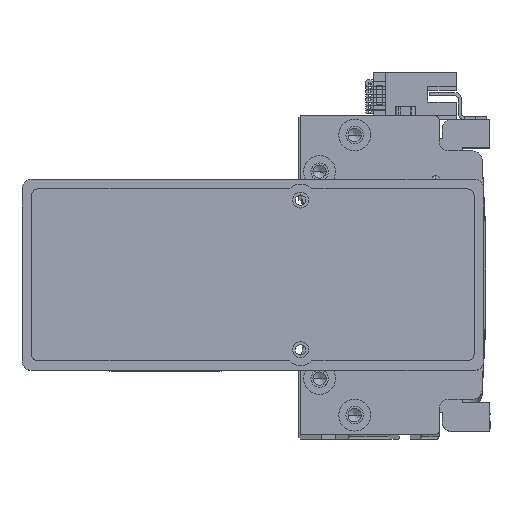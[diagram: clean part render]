
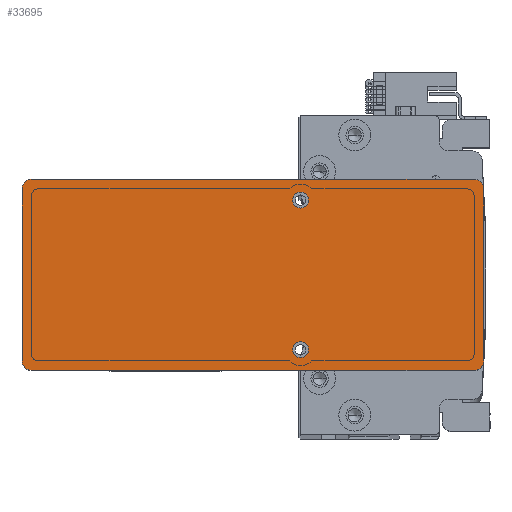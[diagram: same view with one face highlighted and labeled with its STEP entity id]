
A CAD part, top view. The second image highlights one B-rep face of the part: STEP entity #33695.
In plain terms, the highlighted planar face has unit normal (0, 0, 1) as drawn and (0, 0, -1) by its records, which use the part's own axes.
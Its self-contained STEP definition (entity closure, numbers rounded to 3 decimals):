
#326 = CARTESIAN_POINT ( 'NONE',  ( 12.5, 23.5, 0. ) ) ;
#725 = DIRECTION ( 'NONE',  ( 1., 0., 0. ) ) ;
#1093 = EDGE_CURVE ( 'NONE', #5462, #7556, #1558, .T. ) ;
#1199 = EDGE_LOOP ( 'NONE', ( #21313, #26274 ) ) ;
#1558 = LINE ( 'NONE', #44681, #29182 ) ;
#2120 = CIRCLE ( 'NONE', #23175, 2.5 ) ;
#2193 = VECTOR ( 'NONE', #13432, 1000. ) ;
#2375 = AXIS2_PLACEMENT_3D ( 'NONE', #36609, #14088, #40402 ) ;
#2855 = VECTOR ( 'NONE', #725, 1000. ) ;
#3383 = LINE ( 'NONE', #9618, #2193 ) ;
#3756 = ORIENTED_EDGE ( 'NONE', *, *, #1093, .F. ) ;
#4365 = VERTEX_POINT ( 'NONE', #9665 ) ;
#5462 = VERTEX_POINT ( 'NONE', #42609 ) ;
#5756 = EDGE_LOOP ( 'NONE', ( #25021, #12108, #41928, #28720, #3756, #22137, #45170, #6398 ) ) ;
#6196 = VERTEX_POINT ( 'NONE', #33036 ) ;
#6220 = CIRCLE ( 'NONE', #35793, 2.5 ) ;
#6398 = ORIENTED_EDGE ( 'NONE', *, *, #12328, .T. ) ;
#7210 = DIRECTION ( 'NONE',  ( 0., -1., 0. ) ) ;
#7556 = VERTEX_POINT ( 'NONE', #14453 ) ;
#7626 = AXIS2_PLACEMENT_3D ( 'NONE', #32144, #9577, #35934 ) ;
#8049 = EDGE_LOOP ( 'NONE', ( #38268, #22619 ) ) ;
#9032 = EDGE_CURVE ( 'NONE', #23651, #34639, #23567, .T. ) ;
#9577 = DIRECTION ( 'NONE',  ( 0., 0., 1. ) ) ;
#9618 = CARTESIAN_POINT ( 'NONE',  ( 72.5, -30., 0. ) ) ;
#9665 = CARTESIAN_POINT ( 'NONE',  ( 69.5, -30., 0. ) ) ;
#10615 = VERTEX_POINT ( 'NONE', #27537 ) ;
#10678 = CIRCLE ( 'NONE', #30836, 2.5 ) ;
#10816 = CIRCLE ( 'NONE', #23908, 3. ) ;
#10824 = DIRECTION ( 'NONE',  ( 0., 0., -1. ) ) ;
#10969 = VERTEX_POINT ( 'NONE', #37111 ) ;
#11783 = CARTESIAN_POINT ( 'NONE',  ( 17.5, 23.5, 0. ) ) ;
#12108 = ORIENTED_EDGE ( 'NONE', *, *, #16520, .T. ) ;
#12328 = EDGE_CURVE ( 'NONE', #10615, #14866, #27475, .T. ) ;
#12397 = DIRECTION ( 'NONE',  ( 0., 0., -1. ) ) ;
#13432 = DIRECTION ( 'NONE',  ( 0., 1., 0. ) ) ;
#14088 = DIRECTION ( 'NONE',  ( 0., 0., -1. ) ) ;
#14093 = DIRECTION ( 'NONE',  ( 0., 0., -1. ) ) ;
#14182 = CARTESIAN_POINT ( 'NONE',  ( 17.5, -23.5, 0. ) ) ;
#14453 = CARTESIAN_POINT ( 'NONE',  ( -72.5, -27., 0. ) ) ;
#14645 = CARTESIAN_POINT ( 'NONE',  ( -69.5, -30., 0. ) ) ;
#14730 = EDGE_CURVE ( 'NONE', #45555, #7556, #18760, .T. ) ;
#14866 = VERTEX_POINT ( 'NONE', #26290 ) ;
#14882 = CARTESIAN_POINT ( 'NONE',  ( -69.5, 30., 0. ) ) ;
#16520 = EDGE_CURVE ( 'NONE', #10969, #4365, #10816, .T. ) ;
#17188 = VECTOR ( 'NONE', #21467, 1000. ) ;
#17633 = CARTESIAN_POINT ( 'NONE',  ( 72.5, 30., 0. ) ) ;
#17644 = AXIS2_PLACEMENT_3D ( 'NONE', #18857, #45192, #22673 ) ;
#18760 = CIRCLE ( 'NONE', #2375, 3. ) ;
#18857 = CARTESIAN_POINT ( 'NONE',  ( -69.5, 27., 0. ) ) ;
#18977 = DIRECTION ( 'NONE',  ( 0., 0., -1. ) ) ;
#19128 = FACE_OUTER_BOUND ( 'NONE', #5756, .T. ) ;
#19184 = DIRECTION ( 'NONE',  ( 0., 0., -1. ) ) ;
#20419 = DIRECTION ( 'NONE',  ( 0., 0., -1. ) ) ;
#21233 = EDGE_CURVE ( 'NONE', #10615, #39708, #27175, .T. ) ;
#21313 = ORIENTED_EDGE ( 'NONE', *, *, #30440, .F. ) ;
#21467 = DIRECTION ( 'NONE',  ( -1., 0., 0. ) ) ;
#22137 = ORIENTED_EDGE ( 'NONE', *, *, #32406, .T. ) ;
#22619 = ORIENTED_EDGE ( 'NONE', *, *, #42277, .F. ) ;
#22673 = DIRECTION ( 'NONE',  ( 1., 0., 0. ) ) ;
#22895 = VERTEX_POINT ( 'NONE', #14182 ) ;
#23175 = AXIS2_PLACEMENT_3D ( 'NONE', #42853, #20419, #46655 ) ;
#23253 = CARTESIAN_POINT ( 'NONE',  ( 72.5, -30., 0. ) ) ;
#23567 = CIRCLE ( 'NONE', #33154, 2.5 ) ;
#23651 = VERTEX_POINT ( 'NONE', #11783 ) ;
#23908 = AXIS2_PLACEMENT_3D ( 'NONE', #41703, #19184, #45512 ) ;
#24024 = LINE ( 'NONE', #23253, #2855 ) ;
#25021 = ORIENTED_EDGE ( 'NONE', *, *, #27519, .F. ) ;
#26274 = ORIENTED_EDGE ( 'NONE', *, *, #9032, .F. ) ;
#26290 = CARTESIAN_POINT ( 'NONE',  ( 72.5, 27., 0. ) ) ;
#27175 = LINE ( 'NONE', #17633, #17188 ) ;
#27475 = CIRCLE ( 'NONE', #39045, 3. ) ;
#27519 = EDGE_CURVE ( 'NONE', #10969, #14866, #3383, .T. ) ;
#27537 = CARTESIAN_POINT ( 'NONE',  ( 69.5, 30., 0. ) ) ;
#28720 = ORIENTED_EDGE ( 'NONE', *, *, #14730, .T. ) ;
#29111 = FACE_BOUND ( 'NONE', #1199, .T. ) ;
#29182 = VECTOR ( 'NONE', #7210, 1000. ) ;
#30440 = EDGE_CURVE ( 'NONE', #34639, #23651, #2120, .T. ) ;
#30836 = AXIS2_PLACEMENT_3D ( 'NONE', #34919, #12397, #38644 ) ;
#31556 = EDGE_CURVE ( 'NONE', #6196, #22895, #10678, .T. ) ;
#32144 = CARTESIAN_POINT ( 'NONE',  ( 0., 0., 0. ) ) ;
#32406 = EDGE_CURVE ( 'NONE', #5462, #39708, #42852, .T. ) ;
#33036 = CARTESIAN_POINT ( 'NONE',  ( 12.5, -23.5, 0. ) ) ;
#33154 = AXIS2_PLACEMENT_3D ( 'NONE', #41520, #18977, #45322 ) ;
#33338 = CARTESIAN_POINT ( 'NONE',  ( 69.5, 27., 0. ) ) ;
#33695 = ADVANCED_FACE ( 'NONE', ( #29111, #37933, #19128 ), #43288, .F. ) ;
#34639 = VERTEX_POINT ( 'NONE', #326 ) ;
#34919 = CARTESIAN_POINT ( 'NONE',  ( 15., -23.5, 0. ) ) ;
#35793 = AXIS2_PLACEMENT_3D ( 'NONE', #36616, #14093, #40410 ) ;
#35934 = DIRECTION ( 'NONE',  ( 1., 0., 0. ) ) ;
#36609 = CARTESIAN_POINT ( 'NONE',  ( -69.5, -27., 0. ) ) ;
#36616 = CARTESIAN_POINT ( 'NONE',  ( 15., -23.5, 0. ) ) ;
#37091 = DIRECTION ( 'NONE',  ( 1., 0., 0. ) ) ;
#37111 = CARTESIAN_POINT ( 'NONE',  ( 72.5, -27., 0. ) ) ;
#37933 = FACE_BOUND ( 'NONE', #8049, .T. ) ;
#38268 = ORIENTED_EDGE ( 'NONE', *, *, #31556, .F. ) ;
#38644 = DIRECTION ( 'NONE',  ( -1., 0., 0. ) ) ;
#39045 = AXIS2_PLACEMENT_3D ( 'NONE', #33338, #10824, #37091 ) ;
#39708 = VERTEX_POINT ( 'NONE', #14882 ) ;
#40402 = DIRECTION ( 'NONE',  ( 1., 0., 0. ) ) ;
#40410 = DIRECTION ( 'NONE',  ( -1., 0., 0. ) ) ;
#41520 = CARTESIAN_POINT ( 'NONE',  ( 15., 23.5, 0. ) ) ;
#41703 = CARTESIAN_POINT ( 'NONE',  ( 69.5, -27., 0. ) ) ;
#41928 = ORIENTED_EDGE ( 'NONE', *, *, #44592, .F. ) ;
#42277 = EDGE_CURVE ( 'NONE', #22895, #6196, #6220, .T. ) ;
#42609 = CARTESIAN_POINT ( 'NONE',  ( -72.5, 27., 0. ) ) ;
#42852 = CIRCLE ( 'NONE', #17644, 3. ) ;
#42853 = CARTESIAN_POINT ( 'NONE',  ( 15., 23.5, 0. ) ) ;
#43288 = PLANE ( 'NONE',  #7626 ) ;
#44592 = EDGE_CURVE ( 'NONE', #45555, #4365, #24024, .T. ) ;
#44681 = CARTESIAN_POINT ( 'NONE',  ( -72.5, -30., 0. ) ) ;
#45170 = ORIENTED_EDGE ( 'NONE', *, *, #21233, .F. ) ;
#45192 = DIRECTION ( 'NONE',  ( 0., 0., -1. ) ) ;
#45322 = DIRECTION ( 'NONE',  ( -1., 0., 0. ) ) ;
#45512 = DIRECTION ( 'NONE',  ( 1., 0., 0. ) ) ;
#45555 = VERTEX_POINT ( 'NONE', #14645 ) ;
#46655 = DIRECTION ( 'NONE',  ( -1., 0., 0. ) ) ;
